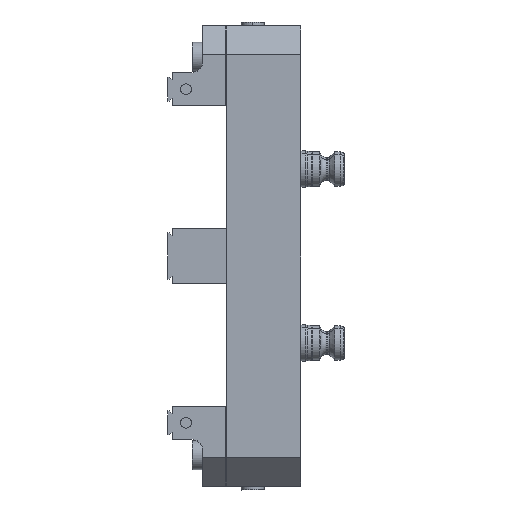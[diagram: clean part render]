
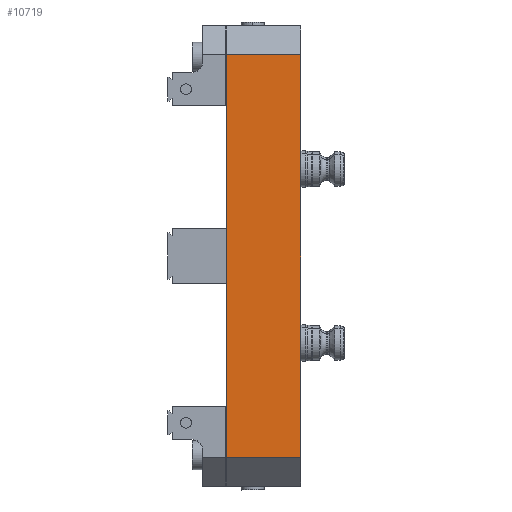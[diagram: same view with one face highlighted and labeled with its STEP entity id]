
A CAD part, left-side view. The second image highlights one B-rep face of the part: STEP entity #10719.
In plain terms, the highlighted planar face has unit normal (-1, 0, 0).
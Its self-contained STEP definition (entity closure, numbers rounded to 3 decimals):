
#224 = LINE ( 'NONE', #1799, #570 ) ;
#570 = VECTOR ( 'NONE', #5123, 1000. ) ;
#696 = CARTESIAN_POINT ( 'NONE',  ( 0., 41.275, 238.125 ) ) ;
#1627 = EDGE_CURVE ( 'NONE', #11088, #2736, #224, .T. ) ;
#1799 = CARTESIAN_POINT ( 'NONE',  ( 0., 0., 254. ) ) ;
#2061 = DIRECTION ( 'NONE',  ( 1., 0., 0. ) ) ;
#2412 = VECTOR ( 'NONE', #11332, 1000. ) ;
#2452 = CARTESIAN_POINT ( 'NONE',  ( 0., 41.275, 15.875 ) ) ;
#2464 = ORIENTED_EDGE ( 'NONE', *, *, #8005, .T. ) ;
#2677 = LINE ( 'NONE', #7228, #7829 ) ;
#2736 = VERTEX_POINT ( 'NONE', #4632 ) ;
#4632 = CARTESIAN_POINT ( 'NONE',  ( 0., 0., 15.875 ) ) ;
#5123 = DIRECTION ( 'NONE',  ( 0., 0., -1. ) ) ;
#6060 = DIRECTION ( 'NONE',  ( 0., 1., 0. ) ) ;
#6308 = LINE ( 'NONE', #12674, #10604 ) ;
#6387 = CARTESIAN_POINT ( 'NONE',  ( 0., 0., 254. ) ) ;
#6825 = AXIS2_PLACEMENT_3D ( 'NONE', #6387, #2061, #7585 ) ;
#6872 = LINE ( 'NONE', #10151, #2412 ) ;
#7228 = CARTESIAN_POINT ( 'NONE',  ( 0., 0., 15.875 ) ) ;
#7229 = FACE_OUTER_BOUND ( 'NONE', #13343, .T. ) ;
#7585 = DIRECTION ( 'NONE',  ( 0., 0., -1. ) ) ;
#7829 = VECTOR ( 'NONE', #10549, 1000. ) ;
#8005 = EDGE_CURVE ( 'NONE', #11088, #8287, #6308, .T. ) ;
#8061 = CARTESIAN_POINT ( 'NONE',  ( 0., 0., 238.125 ) ) ;
#8287 = VERTEX_POINT ( 'NONE', #696 ) ;
#10151 = CARTESIAN_POINT ( 'NONE',  ( 0., 41.275, 254. ) ) ;
#10549 = DIRECTION ( 'NONE',  ( 0., 1., 0. ) ) ;
#10604 = VECTOR ( 'NONE', #6060, 1000. ) ;
#10719 = ADVANCED_FACE ( 'NONE', ( #7229 ), #13087, .F. ) ;
#10763 = ORIENTED_EDGE ( 'NONE', *, *, #13989, .F. ) ;
#11007 = EDGE_CURVE ( 'NONE', #8287, #12198, #6872, .T. ) ;
#11088 = VERTEX_POINT ( 'NONE', #8061 ) ;
#11332 = DIRECTION ( 'NONE',  ( 0., 0., -1. ) ) ;
#12198 = VERTEX_POINT ( 'NONE', #2452 ) ;
#12674 = CARTESIAN_POINT ( 'NONE',  ( 0., 0., 238.125 ) ) ;
#12997 = ORIENTED_EDGE ( 'NONE', *, *, #1627, .F. ) ;
#13087 = PLANE ( 'NONE',  #6825 ) ;
#13343 = EDGE_LOOP ( 'NONE', ( #12997, #2464, #13940, #10763 ) ) ;
#13940 = ORIENTED_EDGE ( 'NONE', *, *, #11007, .T. ) ;
#13989 = EDGE_CURVE ( 'NONE', #2736, #12198, #2677, .T. ) ;
